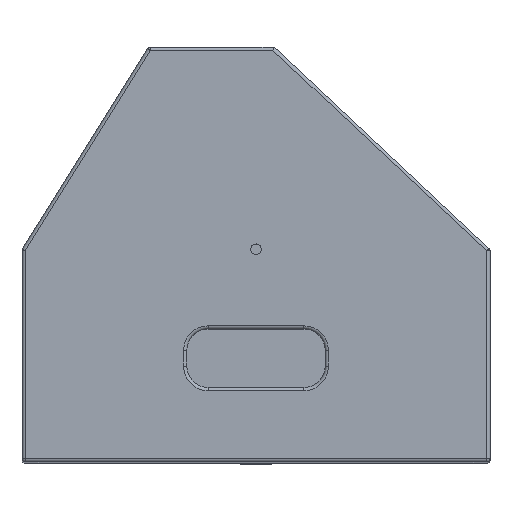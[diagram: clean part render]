
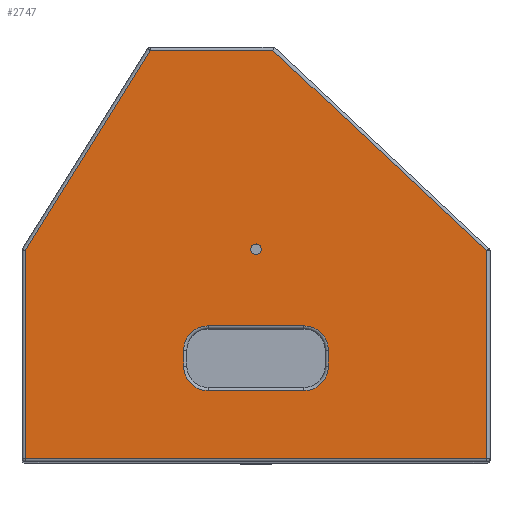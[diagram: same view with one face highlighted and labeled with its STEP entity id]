
A CAD part, top view. The second image highlights one B-rep face of the part: STEP entity #2747.
In plain terms, the highlighted planar face has unit normal (0, 0, 1).
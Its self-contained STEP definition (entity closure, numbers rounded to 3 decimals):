
#63=FACE_BOUND('',#456,.T.);
#64=FACE_BOUND('',#457,.T.);
#140=PLANE('',#3035);
#274=FACE_OUTER_BOUND('',#455,.T.);
#455=EDGE_LOOP('',(#2203,#2204,#2205,#2206,#2207,#2208));
#456=EDGE_LOOP('',(#2209));
#457=EDGE_LOOP('',(#2210,#2211,#2212,#2213,#2214,#2215,#2216,#2217));
#696=LINE('',#4522,#920);
#698=LINE('',#4534,#922);
#700=LINE('',#4546,#924);
#702=LINE('',#4555,#926);
#709=LINE('',#4569,#933);
#710=LINE('',#4571,#934);
#711=LINE('',#4573,#935);
#712=LINE('',#4575,#936);
#713=LINE('',#4577,#937);
#714=LINE('',#4578,#938);
#920=VECTOR('',#3700,10.);
#922=VECTOR('',#3714,10.);
#924=VECTOR('',#3728,10.);
#926=VECTOR('',#3740,10.);
#933=VECTOR('',#3757,10.);
#934=VECTOR('',#3758,10.);
#935=VECTOR('',#3759,10.);
#936=VECTOR('',#3760,10.);
#937=VECTOR('',#3761,10.);
#938=VECTOR('',#3762,10.);
#1046=CIRCLE('',#3011,23.);
#1049=CIRCLE('',#3016,23.);
#1053=CIRCLE('',#3022,23.);
#1057=CIRCLE('',#3028,23.);
#1059=CIRCLE('',#3036,5.);
#1273=VERTEX_POINT('',#4510);
#1276=VERTEX_POINT('',#4515);
#1278=VERTEX_POINT('',#4520);
#1280=VERTEX_POINT('',#4526);
#1282=VERTEX_POINT('',#4532);
#1284=VERTEX_POINT('',#4538);
#1286=VERTEX_POINT('',#4544);
#1288=VERTEX_POINT('',#4550);
#1289=VERTEX_POINT('',#4567);
#1290=VERTEX_POINT('',#4568);
#1291=VERTEX_POINT('',#4570);
#1292=VERTEX_POINT('',#4572);
#1293=VERTEX_POINT('',#4574);
#1294=VERTEX_POINT('',#4576);
#1295=VERTEX_POINT('',#4579);
#1584=EDGE_CURVE('',#1276,#1273,#1046,.T.);
#1586=EDGE_CURVE('',#1278,#1276,#696,.T.);
#1589=EDGE_CURVE('',#1280,#1278,#1049,.T.);
#1592=EDGE_CURVE('',#1282,#1280,#698,.T.);
#1595=EDGE_CURVE('',#1284,#1282,#1053,.T.);
#1598=EDGE_CURVE('',#1286,#1284,#700,.T.);
#1601=EDGE_CURVE('',#1288,#1286,#1057,.T.);
#1603=EDGE_CURVE('',#1273,#1288,#702,.T.);
#1610=EDGE_CURVE('',#1289,#1290,#709,.T.);
#1611=EDGE_CURVE('',#1291,#1289,#710,.T.);
#1612=EDGE_CURVE('',#1292,#1291,#711,.T.);
#1613=EDGE_CURVE('',#1293,#1292,#712,.T.);
#1614=EDGE_CURVE('',#1294,#1293,#713,.T.);
#1615=EDGE_CURVE('',#1290,#1294,#714,.T.);
#1616=EDGE_CURVE('',#1295,#1295,#1059,.T.);
#2203=ORIENTED_EDGE('',*,*,#1610,.F.);
#2204=ORIENTED_EDGE('',*,*,#1611,.F.);
#2205=ORIENTED_EDGE('',*,*,#1612,.F.);
#2206=ORIENTED_EDGE('',*,*,#1613,.F.);
#2207=ORIENTED_EDGE('',*,*,#1614,.F.);
#2208=ORIENTED_EDGE('',*,*,#1615,.F.);
#2209=ORIENTED_EDGE('',*,*,#1616,.T.);
#2210=ORIENTED_EDGE('',*,*,#1584,.F.);
#2211=ORIENTED_EDGE('',*,*,#1586,.F.);
#2212=ORIENTED_EDGE('',*,*,#1589,.F.);
#2213=ORIENTED_EDGE('',*,*,#1592,.F.);
#2214=ORIENTED_EDGE('',*,*,#1595,.F.);
#2215=ORIENTED_EDGE('',*,*,#1598,.F.);
#2216=ORIENTED_EDGE('',*,*,#1601,.F.);
#2217=ORIENTED_EDGE('',*,*,#1603,.F.);
#2747=ADVANCED_FACE('',(#274,#63,#64),#140,.T.);
#3011=AXIS2_PLACEMENT_3D('',#4517,#3694,#3695);
#3016=AXIS2_PLACEMENT_3D('',#4528,#3706,#3707);
#3022=AXIS2_PLACEMENT_3D('',#4540,#3720,#3721);
#3028=AXIS2_PLACEMENT_3D('',#4552,#3734,#3735);
#3035=AXIS2_PLACEMENT_3D('',#4566,#3755,#3756);
#3036=AXIS2_PLACEMENT_3D('',#4580,#3763,#3764);
#3694=DIRECTION('center_axis',(0.,0.,1.));
#3695=DIRECTION('ref_axis',(0.707,0.707,0.));
#3700=DIRECTION('',(0.,1.,0.));
#3706=DIRECTION('center_axis',(0.,0.,1.));
#3707=DIRECTION('ref_axis',(0.707,-0.707,0.));
#3714=DIRECTION('',(1.,0.,0.));
#3720=DIRECTION('center_axis',(0.,0.,1.));
#3721=DIRECTION('ref_axis',(-0.707,-0.707,0.));
#3728=DIRECTION('',(0.,-1.,0.));
#3734=DIRECTION('center_axis',(0.,0.,1.));
#3735=DIRECTION('ref_axis',(-0.707,0.707,0.));
#3740=DIRECTION('',(-1.,0.,0.));
#3755=DIRECTION('center_axis',(0.,0.,1.));
#3756=DIRECTION('ref_axis',(1.,0.,0.));
#3757=DIRECTION('',(1.,0.,0.));
#3758=DIRECTION('',(0.53,0.848,0.));
#3759=DIRECTION('',(0.,1.,0.));
#3760=DIRECTION('',(-1.,0.,0.));
#3761=DIRECTION('',(0.,-1.,0.));
#3762=DIRECTION('',(0.73,-0.683,0.));
#3763=DIRECTION('center_axis',(0.,0.,-1.));
#3764=DIRECTION('ref_axis',(1.,0.,0.));
#4510=CARTESIAN_POINT('',(75.,-67.,720.));
#4515=CARTESIAN_POINT('',(98.,-90.,720.));
#4517=CARTESIAN_POINT('Origin',(75.,-90.,720.));
#4520=CARTESIAN_POINT('',(98.,-105.,720.));
#4522=CARTESIAN_POINT('',(98.,-45.,720.));
#4526=CARTESIAN_POINT('',(75.,-128.,720.));
#4528=CARTESIAN_POINT('Origin',(75.,-105.,720.));
#4532=CARTESIAN_POINT('',(-15.,-128.,720.));
#4534=CARTESIAN_POINT('',(52.5,-128.,720.));
#4538=CARTESIAN_POINT('',(-38.,-105.,720.));
#4540=CARTESIAN_POINT('Origin',(-15.,-105.,720.));
#4544=CARTESIAN_POINT('',(-38.,-90.,720.));
#4546=CARTESIAN_POINT('',(-38.,-52.5,720.));
#4550=CARTESIAN_POINT('',(-15.,-67.,720.));
#4552=CARTESIAN_POINT('Origin',(-15.,-90.,720.));
#4555=CARTESIAN_POINT('',(7.5,-67.,720.));
#4566=CARTESIAN_POINT('Origin',(30.,0.,720.));
#4567=CARTESIAN_POINT('',(-69.348,192.,720.));
#4568=CARTESIAN_POINT('',(45.804,192.,720.));
#4569=CARTESIAN_POINT('',(38.494,192.,720.));
#4570=CARTESIAN_POINT('',(-187.,3.718,720.));
#4571=CARTESIAN_POINT('',(-98.541,145.282,720.));
#4572=CARTESIAN_POINT('',(-187.,-192.,720.));
#4573=CARTESIAN_POINT('',(-187.,1.859,720.));
#4574=CARTESIAN_POINT('',(247.,-192.,720.));
#4575=CARTESIAN_POINT('',(-78.5,-192.,720.));
#4576=CARTESIAN_POINT('',(247.,3.699,720.));
#4577=CARTESIAN_POINT('',(247.,-96.,720.));
#4578=CARTESIAN_POINT('',(190.085,56.966,720.));
#4579=CARTESIAN_POINT('',(25.,5.,720.));
#4580=CARTESIAN_POINT('Origin',(30.,5.,720.));
